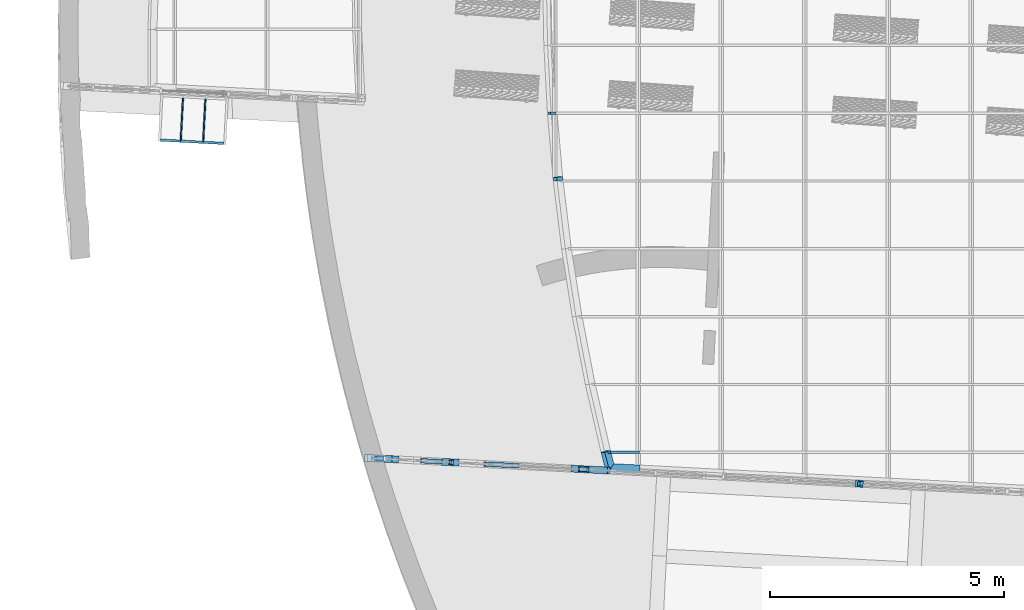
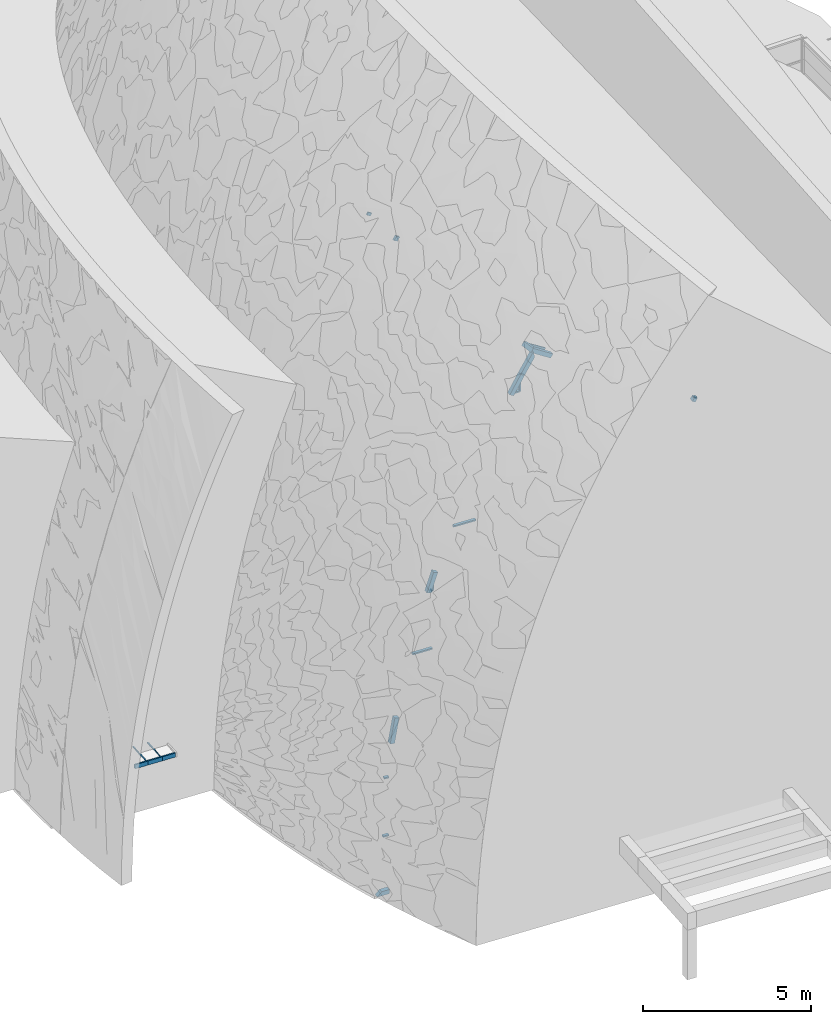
# One storey, part 23 of 82: 26 members, 2 elements without a shape of their own.
"""IFC2X3 building model written with IfcOpenShell, lengths in millimetres."""

from ifc_helpers import new_model, entity, si_unit, converted_unit, derived_unit, direction, frame, frame_2d, origin, origin_2d_with_axis, place, context, subcontext, project, spatial, polyline, rectangle, extrude, clip, halfspace, bounded_halfspace, source, transform, mapped, material, type_object, type_shapes, element, aggregate, save


model = new_model("IFC2X3")

# Units and contexts
model_context = context("Model", 3, precision=0.01, world=origin(), true_north=direction((6.12303176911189e-17, 1.0)))
body_context = subcontext(model_context, "Body", "Model", "MODEL_VIEW")
ifc_project = project(units=[si_unit("LENGTHUNIT", "METRE", prefix="MILLI"), si_unit("AREAUNIT", "SQUARE_METRE"), si_unit("VOLUMEUNIT", "CUBIC_METRE"), converted_unit("PLANEANGLEUNIT", "DEGREE", entity("IfcRatioMeasure", 0.0174532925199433), si_unit("PLANEANGLEUNIT", "RADIAN"), dimensions=[0, 0, 0, 0, 0, 0, 0]), si_unit("MASSUNIT", "GRAM", prefix="KILO"), derived_unit("MASSDENSITYUNIT", [(si_unit("MASSUNIT", "GRAM", prefix="KILO"), 1), (si_unit("LENGTHUNIT", "METRE"), -3)]), si_unit("TIMEUNIT", "SECOND"), si_unit("FREQUENCYUNIT", "HERTZ"), si_unit("THERMODYNAMICTEMPERATUREUNIT", "DEGREE_CELSIUS"), derived_unit("THERMALTRANSMITTANCEUNIT", [(si_unit("MASSUNIT", "GRAM", prefix="KILO"), 1), (si_unit("THERMODYNAMICTEMPERATUREUNIT", "KELVIN"), -1), (si_unit("TIMEUNIT", "SECOND"), -3)]), derived_unit("VOLUMETRICFLOWRATEUNIT", [(si_unit("LENGTHUNIT", "METRE"), 3), (si_unit("TIMEUNIT", "SECOND"), -1)]), si_unit("ELECTRICCURRENTUNIT", "AMPERE"), si_unit("ELECTRICVOLTAGEUNIT", "VOLT"), si_unit("POWERUNIT", "WATT"), si_unit("FORCEUNIT", "NEWTON", prefix="KILO"), si_unit("ILLUMINANCEUNIT", "LUX"), si_unit("LUMINOUSFLUXUNIT", "LUMEN"), si_unit("LUMINOUSINTENSITYUNIT", "CANDELA"), derived_unit("USERDEFINED", [(si_unit("MASSUNIT", "GRAM", prefix="KILO"), -1), (si_unit("LENGTHUNIT", "METRE"), -2), (si_unit("TIMEUNIT", "SECOND"), 3), (si_unit("LUMINOUSFLUXUNIT", "LUMEN"), 1)]), derived_unit("LINEARVELOCITYUNIT", [(si_unit("LENGTHUNIT", "METRE"), 1), (si_unit("TIMEUNIT", "SECOND"), -1)]), si_unit("PRESSUREUNIT", "PASCAL"), derived_unit("USERDEFINED", [(si_unit("LENGTHUNIT", "METRE"), -2), (si_unit("MASSUNIT", "GRAM", prefix="KILO"), 1), (si_unit("TIMEUNIT", "SECOND"), -2)])], contexts=[model_context])

# Site, building, storey
site_placement = place(None, origin())
site = spatial("IfcSite", under=ifc_project, at=site_placement, Name="表面", CompositionType="ELEMENT")
building_placement = place(site_placement, origin())
building = spatial("IfcBuilding", under=site, at=building_placement, CompositionType="ELEMENT")
storey_placement = place(building_placement, origin())
storey = spatial("IfcBuildingStorey", under=building, at=storey_placement, Name="1F", CompositionType="ELEMENT", Elevation=0.0)

# Curtain wall, members
curtain_wall_type_1 = type_object("IfcCurtainWallType", Name="幕墙系统:1450 x 2100mm", PredefinedType="NOTDEFINED")
curtain_wall_placement = place(storey_placement, origin())
curtain_wall = element("IfcCurtainWall", 1, at=curtain_wall_placement, inside=storey, type_object=curtain_wall_type_1, Name="幕墙系统:1450 x 2100mm", ObjectType="幕墙系统:1450 x 2100mm")
ifc_material_1 = material(Name="木质 - 木材")
member_type_1 = type_object("IfcMemberType", Name="200 x 150mm", PredefinedType="MEMBER")
shared_shape_1 = source(origin(), body_context, "Body", "Clipping", [
    clip(extrude(rectangle(XDim=150.0, YDim=150.0, at=frame_2d((6.3948846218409e-14, 0.0), x_axis=(1.0, 0.0))), frame((-75.0, 0.0, -772.514211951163), z_axis=(0.0, 0.0, 1.0), x_axis=(0.0, -1.0, 0.0)), (0.0, 0.0, 1.0), 772.514211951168), halfspace(frame((0.0, -304.8, 0.0), z_axis=(-0.578851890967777, 0.0, 0.815432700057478), x_axis=(-0.815432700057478, 0.0, -0.578851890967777)), False)),
])
type_shapes(member_type_1, [shared_shape_1])
placement_1 = place(building_placement, frame((0.0, 0.0, 9000.0)))
member_1_placement = place(placement_1, frame((-29478.0877488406, -28278.2446626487, 9116.15051836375), z_axis=(-0.847211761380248, 0.044400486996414, 0.52939666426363), x_axis=(-0.0376537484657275, -0.999013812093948, 0.023528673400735)))
member_1 = element("IfcMember", 2, at=member_1_placement, type_object=member_type_1, material=ifc_material_1, Name="矩形竖梃:200 x 150mm", ObjectType="200 x 150mm", context=body_context, shape_type="MappedRepresentation", body=[
    mapped(shared_shape_1, transform((0.0, 0.0, 0.0), scale=1.0)),
])
member_type_2 = type_object("IfcMemberType", Name="200 x 150mm", PredefinedType="MEMBER")
shared_shape_2 = source(origin(), body_context, "Body", "Clipping", [
    clip(clip(extrude(rectangle(XDim=150.0, YDim=150.0, at=origin_2d_with_axis()), frame((-75.0, 0.0, -406.519172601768), z_axis=(0.0, 0.0, 1.0), x_axis=(0.0, -1.0, 0.0)), (0.0, 0.0, 1.0), 406.519172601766), halfspace(frame((0.0, -304.8, -406.519172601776), z_axis=(-0.578851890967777, 0.0, -0.815432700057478), x_axis=(-0.815432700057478, 0.0, 0.578851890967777)), False)), halfspace(frame((0.0, -304.8, 0.0), z_axis=(-0.0131672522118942, 0.0, 0.999913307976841), x_axis=(-0.999913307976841, 0.0, -0.0131672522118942)), False)),
])
type_shapes(member_type_2, [shared_shape_2])
member_2_placement = place(placement_1, frame((-29577.2442179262, -27888.9031535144, 9178.11035693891), z_axis=(-0.243915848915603, 0.95774451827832, 0.152415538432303), x_axis=(-0.812213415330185, -0.28762030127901, 0.50752727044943)))
member_2 = element("IfcMember", 3, at=member_2_placement, type_object=member_type_2, material=ifc_material_1, Name="矩形竖梃:200 x 150mm", ObjectType="200 x 150mm", context=body_context, shape_type="MappedRepresentation", body=[
    mapped(shared_shape_2, transform((0.0, 0.0, 0.0), scale=1.0)),
])
member_type_3 = type_object("IfcMemberType", Name="200 x 150mm", PredefinedType="MEMBER")
shared_shape_3 = source(origin(), body_context, "Body", "SweptSolid", [
    extrude(rectangle(XDim=150.0, YDim=150.0, at=origin_2d_with_axis()), frame((-75.0, 0.0, -77.3687462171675), z_axis=(0.0, 0.0, 1.0), x_axis=(0.0, -1.0, 0.0)), (0.0, 0.0, 1.0), 77.3687462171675),
])
type_shapes(member_type_3, [shared_shape_3])
member_3_placement = place(placement_1, frame((-30604.5056245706, -22012.104578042, 9820.01452635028), z_axis=(-0.102766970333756, 0.992630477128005, 0.0642159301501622), x_axis=(-0.841798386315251, -0.121180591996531, 0.526014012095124)))
member_3 = element("IfcMember", 4, at=member_3_placement, type_object=member_type_3, material=ifc_material_1, Name="矩形竖梃:200 x 150mm", ObjectType="200 x 150mm", context=body_context, shape_type="MappedRepresentation", body=[
    mapped(shared_shape_3, transform((0.0, 0.0, 0.0), scale=1.0)),
])
ifc_material_2 = material(Name="金属 - 铝")
member_type_4 = type_object("IfcMemberType", Name="50 x 100mm", PredefinedType="MEMBER")
shared_shape_4 = source(origin(), body_context, "Body", "SweptSolid", [
    extrude(rectangle(XDim=100.0, YDim=50.0, at=origin_2d_with_axis()), frame((0.0, 0.0, -139.682920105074), z_axis=(0.0, 0.0, 1.0), x_axis=(0.0, -1.0, 0.0)), (0.0, 0.0, 1.0), 139.682920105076),
])
type_shapes(member_type_4, [shared_shape_4])
member_4_placement = place(placement_1, frame((-30722.9634590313, -20638.9031535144, 9894.0351965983), z_axis=(-0.848048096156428, 0.0, 0.529919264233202), x_axis=(0.0, -1.0, 0.0)))
member_4 = element("IfcMember", 5, at=member_4_placement, type_object=member_type_4, material=ifc_material_2, Name="矩形竖梃:50 x 100mm", ObjectType="50 x 100mm", context=body_context, shape_type="MappedRepresentation", body=[
    mapped(shared_shape_4, transform((0.0, 0.0, 0.0), scale=1.0)),
])
member_type_5 = type_object("IfcMemberType", Name="50 x 100mm", PredefinedType="MEMBER")
shared_shape_5 = source(origin(), body_context, "Body", "Clipping", [
    clip(extrude(rectangle(XDim=100.0, YDim=50.0, at=origin_2d_with_axis()), frame((0.0, 0.0, -888.675534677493), z_axis=(0.0, 0.0, 1.0), x_axis=(0.0, -1.0, 0.0)), (0.0, 0.0, 1.0), 739.565318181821), halfspace(frame((-41.2512516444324, 75.0, -144.229802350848), z_axis=(0.28762030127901, 0.0, 0.95774451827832), x_axis=(0.95774451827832, 0.0, -0.28762030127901)), False)),
])
type_shapes(member_type_5, [shared_shape_5])
member_5_placement = place(placement_1, frame((-29577.2442179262, -27888.9031535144, 9178.11035693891), z_axis=(-0.848048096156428, 0.0, 0.529919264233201), x_axis=(0.0, -1.0, 0.0)))
member_5 = element("IfcMember", 6, at=member_5_placement, type_object=member_type_5, material=ifc_material_2, Name="矩形竖梃:50 x 100mm", ObjectType="50 x 100mm", context=body_context, shape_type="MappedRepresentation", body=[
    mapped(shared_shape_5, transform((0.0, 0.0, 0.0), scale=1.0)),
])
member_type_6 = type_object("IfcMemberType", Name="200 x 150mm", PredefinedType="MEMBER")
shared_shape_6 = source(origin(), body_context, "Body", "Clipping", [
    clip(extrude(rectangle(XDim=150.0, YDim=150.0, at=origin_2d_with_axis()), frame((-75.0, 0.0, -406.676293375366), z_axis=(0.0, 0.0, 1.0), x_axis=(0.0, -1.0, 0.0)), (0.0, 0.0, 1.0), 406.676293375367), halfspace(frame((0.0, -304.8, 0.0), z_axis=(-0.717899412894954, 0.0, 0.696146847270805), x_axis=(-0.696146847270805, 0.0, -0.717899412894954)), False)),
])
type_shapes(member_type_6, [shared_shape_6])
member_6_placement = place(storey_placement, frame((-34671.8262045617, -28006.0523640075, 0.0), z_axis=(-0.998629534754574, 0.0523359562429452, 0.0), x_axis=(0.0, 0.0, -1.0)))
member_6 = element("IfcMember", 7, at=member_6_placement, type_object=member_type_6, material=ifc_material_1, Name="矩形竖梃:200 x 150mm", ObjectType="200 x 150mm", context=body_context, shape_type="MappedRepresentation", body=[
    mapped(shared_shape_6, transform((0.0, 0.0, 0.0), scale=1.0)),
])
member_type_7 = type_object("IfcMemberType", Name="200 x 150mm", PredefinedType="MEMBER")
shared_shape_7 = source(origin(), body_context, "Body", "Clipping", [
    clip(clip(extrude(rectangle(XDim=150.0, YDim=150.0, at=origin_2d_with_axis()), frame((-75.0, 0.0, -805.488389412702), z_axis=(0.0, 0.0, 1.0), x_axis=(0.0, -1.0, 0.0)), (0.0, 0.0, 1.0), 805.4883894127), halfspace(frame((0.0, -304.799999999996, -805.488389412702), z_axis=(-0.0112113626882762, 0.0, -0.999937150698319), x_axis=(-0.999937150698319, 0.0, 0.0112113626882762)), False)), halfspace(frame((0.0, -304.8, 0.0), z_axis=(-0.710826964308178, 0.0, 0.703366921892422), x_axis=(-0.703366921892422, 0.0, -0.710826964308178)), False)),
])
type_shapes(member_type_7, [shared_shape_7])
member_7_placement = place(placement_1, frame((-29478.0877488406, -28278.2446626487, 9116.15051836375), z_axis=(0.519703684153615, -0.0272365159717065, 0.853912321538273), x_axis=(-0.852742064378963, 0.0446903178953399, 0.520416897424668)))
member_7 = element("IfcMember", 8, at=member_7_placement, type_object=member_type_7, material=ifc_material_1, Name="矩形竖梃:200 x 150mm", ObjectType="200 x 150mm", context=body_context, shape_type="MappedRepresentation", body=[
    mapped(shared_shape_7, transform((0.0, 0.0, 0.0), scale=1.0)),
])
member_type_8 = type_object("IfcMemberType", Name="200 x 150mm", PredefinedType="MEMBER")
shared_shape_8 = source(origin(), body_context, "Body", "SweptSolid", [
    extrude(rectangle(XDim=150.0, YDim=150.0, at=frame_2d((0.0, 1.4210854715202e-14), x_axis=(1.0, 0.0))), frame((-75.0, 0.0, -110.418217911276), z_axis=(0.0, 0.0, 1.0), x_axis=(0.0, -1.0, 0.0)), (0.0, 0.0, 1.0), 110.418217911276),
])
type_shapes(member_type_8, [shared_shape_8])
member_8_placement = place(placement_1, frame((-24011.1041178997, -28564.7571341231, 5700.0), z_axis=(0.847211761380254, -0.0444004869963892, -0.529396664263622), x_axis=(0.528671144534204, -0.0277064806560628, 0.848374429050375)))
member_8 = element("IfcMember", 9, at=member_8_placement, type_object=member_type_8, material=ifc_material_1, Name="矩形竖梃:200 x 150mm", ObjectType="200 x 150mm", context=body_context, shape_type="MappedRepresentation", body=[
    mapped(shared_shape_8, transform((0.0, 0.0, 0.0), scale=1.0)),
])
member_type_9 = type_object("IfcMemberType", Name="200 x 150mm", PredefinedType="MEMBER")
shared_shape_9 = source(origin(), body_context, "Body", "Clipping", [
    clip(clip(extrude(rectangle(XDim=150.0, YDim=150.0, at=origin_2d_with_axis()), frame((-75.0, 0.0, -726.090455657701), z_axis=(0.0, 0.0, 1.0), x_axis=(0.0, -1.0, 0.0)), (0.0, 0.0, 1.0), 726.090455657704), halfspace(frame((0.0, -304.800000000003, -726.090455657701), z_axis=(-0.0225394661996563, 0.0, -0.999745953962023), x_axis=(-0.999745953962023, 0.0, 0.0225394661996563)), False)), halfspace(frame((0.0, -304.800000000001, 0.0), z_axis=(-0.0112113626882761, 0.0, 0.999937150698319), x_axis=(-0.999937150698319, 0.0, -0.0112113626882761)), False)),
])
type_shapes(member_type_9, [shared_shape_9])
member_9_placement = place(placement_1, frame((-29896.7030323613, -28256.3059652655, 8428.33405778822), z_axis=(0.500453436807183, -0.0262276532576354, 0.865366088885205), x_axis=(-0.864180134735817, 0.0452897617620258, 0.501140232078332)))
member_9 = element("IfcMember", 10, at=member_9_placement, type_object=member_type_9, material=ifc_material_1, Name="矩形竖梃:200 x 150mm", ObjectType="200 x 150mm", context=body_context, shape_type="MappedRepresentation", body=[
    mapped(shared_shape_9, transform((0.0, 0.0, 0.0), scale=1.0)),
])
member_type_10 = type_object("IfcMemberType", Name="200 x 150mm", PredefinedType="MEMBER")
shared_shape_10 = source(origin(), body_context, "Body", "Clipping", [
    clip(clip(extrude(rectangle(XDim=150.0, YDim=150.0, at=origin_2d_with_axis()), frame((-75.0, 0.0, -716.815557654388), z_axis=(0.0, 0.0, 1.0), x_axis=(0.0, -1.0, 0.0)), (0.0, 0.0, 1.0), 716.815557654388), halfspace(frame((0.0, -304.8, -716.815557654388), z_axis=(-0.0212459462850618, 0.0, -0.999774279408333), x_axis=(-0.999774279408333, 0.0, 0.0212459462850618)), False)), halfspace(frame((0.0, -304.8, 0.0), z_axis=(-0.0163380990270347, 0.0, 0.999866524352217), x_axis=(-0.999866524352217, 0.0, -0.0163380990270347)), False)),
])
type_shapes(member_type_10, [shared_shape_10])
member_10_placement = place(placement_1, frame((-32792.7286831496, -28104.5316921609, 2179.74674284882), z_axis=(0.316979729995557, -0.0166122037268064, 0.948286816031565), x_axis=(-0.946987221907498, 0.0496294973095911, 0.317414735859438)))
member_10 = element("IfcMember", 11, at=member_10_placement, type_object=member_type_10, material=ifc_material_1, Name="矩形竖梃:200 x 150mm", ObjectType="200 x 150mm", context=body_context, shape_type="MappedRepresentation", body=[
    mapped(shared_shape_10, transform((0.0, 0.0, 0.0), scale=1.0)),
])
member_type_11 = type_object("IfcMemberType", Name="200 x 150mm", PredefinedType="MEMBER")
shared_shape_11 = source(origin(), body_context, "Body", "Clipping", [
    clip(clip(extrude(rectangle(XDim=150.0, YDim=150.0, at=origin_2d_with_axis()), frame((-75.0, 0.0, -900.467325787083), z_axis=(0.0, 0.0, 1.0), x_axis=(0.0, -1.0, 0.0)), (0.0, 0.0, 1.0), 900.467325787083), halfspace(frame((0.0, -304.799999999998, -900.467325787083), z_axis=(-0.0155593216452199, 0.0, -0.999878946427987), x_axis=(-0.999878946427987, 0.0, 0.0155593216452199)), False)), halfspace(frame((0.0, -304.800000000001, 0.0), z_axis=(-0.022333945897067, 0.0, 0.999750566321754), x_axis=(-0.999750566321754, 0.0, -0.022333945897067)), False)),
])
type_shapes(member_type_11, [shared_shape_11])
placement_2 = place(building_placement, frame((0.0, 0.0, 3000.0)))
member_11_placement = place(placement_2, frame((-34086.5278607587, -28036.7265504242, 3300.0), z_axis=(0.171259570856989, -0.00897533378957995, 0.985185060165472), x_axis=(-0.983834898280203, 0.0515606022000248, 0.17149459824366)))
member_11 = element("IfcMember", 12, at=member_11_placement, type_object=member_type_11, material=ifc_material_1, Name="矩形竖梃:200 x 150mm", ObjectType="200 x 150mm", context=body_context, shape_type="MappedRepresentation", body=[
    mapped(shared_shape_11, transform((0.0, 0.0, 0.0), scale=1.0)),
])
member_type_12 = type_object("IfcMemberType", Name="50 x 100mm", PredefinedType="MEMBER")
shared_shape_12 = source(origin(), body_context, "Body", "Clipping", [
    clip(clip(extrude(rectangle(XDim=100.0, YDim=50.0, at=origin_2d_with_axis()), frame((0.0, 0.0, -192.749865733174), z_axis=(0.0, 0.0, 1.0), x_axis=(0.0, -1.0, 0.0)), (0.0, 0.0, 1.0), 192.749865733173), bounded_halfspace(frame((-9.23653718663, 75.0, -192.26476573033), z_axis=(0.0307591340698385, 0.0, -0.999526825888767), x_axis=(-0.999526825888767, 0.0, -0.0307591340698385)), False, frame((0.0, 0.0, -192.749865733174), z_axis=(0.0, 0.0, 1.0), x_axis=(0.0, -1.0, 0.0)), polyline([(50.0, -9.23653718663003), (50.0, -25.0), (-50.0, -25.0), (-50.0, -9.23653718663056), (50.0, -9.23653718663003)]))), bounded_halfspace(frame((2086.15834021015, 75.0, 1.92205646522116), z_axis=(0.0922777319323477, 0.0, -0.99573330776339), x_axis=(-0.99573330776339, 0.0, -0.0922777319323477)), False, frame((0.0, 0.0, -192.749865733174), z_axis=(0.0, 0.0, 1.0), x_axis=(0.0, -1.0, 0.0)), polyline([(-50.0, 25.0), (50.0, 25.0), (50.0, -9.23653718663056), (-50.0, -9.23653718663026), (-50.0, 25.0)]))),
])
type_shapes(member_type_12, [shared_shape_12])
member_12_placement = place(storey_placement, frame((-34265.7072469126, -28027.3361567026, 2100.0), z_axis=(0.998629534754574, -0.0523359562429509, 0.0), x_axis=(0.0, 0.0, 1.0)))
member_12 = element("IfcMember", 13, at=member_12_placement, type_object=member_type_12, material=ifc_material_2, Name="矩形竖梃:50 x 100mm", ObjectType="50 x 100mm", context=body_context, shape_type="MappedRepresentation", body=[
    mapped(shared_shape_12, transform((0.0, 0.0, 0.0), scale=1.0)),
])
member_type_13 = type_object("IfcMemberType", Name="50 x 100mm", PredefinedType="MEMBER")
shared_shape_13 = source(origin(), body_context, "Body", "SweptSolid", [
    extrude(rectangle(XDim=100.0, YDim=50.0, at=origin_2d_with_axis()), frame((0.0, 0.0, -147.437939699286), z_axis=(0.0, 0.0, 1.0), x_axis=(0.0, -1.0, 0.0)), (0.0, 0.0, 1.0), 147.437939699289),
])
type_shapes(member_type_13, [shared_shape_13])
member_13_placement = place(placement_2, frame((-34265.7072469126, -28027.3361567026, 1200.0), z_axis=(0.998629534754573, -0.0523359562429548, 0.0), x_axis=(0.0, 0.0, 1.0)))
member_13 = element("IfcMember", 14, at=member_13_placement, type_object=member_type_13, material=ifc_material_2, Name="矩形竖梃:50 x 100mm", ObjectType="50 x 100mm", context=body_context, shape_type="MappedRepresentation", body=[
    mapped(shared_shape_13, transform((0.0, 0.0, 0.0), scale=1.0)),
])
member_type_14 = type_object("IfcMemberType", Name="50 x 100mm", PredefinedType="MEMBER")
shared_shape_14 = source(origin(), body_context, "Body", "Clipping", [
    clip(extrude(rectangle(XDim=100.0, YDim=50.0, at=origin_2d_with_axis()), frame((0.0, 0.0, -658.645989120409), z_axis=(0.0, 0.0, 1.0), x_axis=(0.0, -1.0, 0.0)), (0.0, 0.0, 1.0), 658.645989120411), halfspace(frame((2058.47358392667, 75.0, -58.3905364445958), z_axis=(0.276842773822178, 0.0, -0.960915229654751), x_axis=(-0.960915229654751, 0.0, -0.276842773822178)), False)),
])
type_shapes(member_type_14, [shared_shape_14])
placement_3 = place(building_placement, frame((0.0, 0.0, 6000.0)))
member_14_placement = place(placement_3, frame((-32817.6944215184, -28103.2232932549, 2400.0), z_axis=(0.998629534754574, -0.0523359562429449, 0.0), x_axis=(0.0, 0.0, 1.0)))
member_14 = element("IfcMember", 15, at=member_14_placement, type_object=member_type_14, material=ifc_material_2, Name="矩形竖梃:50 x 100mm", ObjectType="50 x 100mm", context=body_context, shape_type="MappedRepresentation", body=[
    mapped(shared_shape_14, transform((0.0, 0.0, 0.0), scale=1.0)),
])
member_type_15 = type_object("IfcMemberType", Name="50 x 100mm", PredefinedType="MEMBER")
shared_shape_15 = source(origin(), body_context, "Body", "Clipping", [
    clip(extrude(rectangle(XDim=100.0, YDim=50.0, at=origin_2d_with_axis()), frame((0.0, 0.0, -52.7159399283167), z_axis=(0.0, 0.0, 1.0), x_axis=(0.0, -1.0, 0.0)), (0.0, 0.0, 1.0), 52.7159399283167), halfspace(frame((632.134532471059, 75.0, 167.243022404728), z_axis=(0.317414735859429, 0.0, -0.948286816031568), x_axis=(-0.948286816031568, 0.0, -0.317414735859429)), False)),
])
type_shapes(member_type_15, [shared_shape_15])
member_15_placement = place(placement_1, frame((-32817.6944215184, -28103.2232932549, 1500.0), z_axis=(0.998629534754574, -0.0523359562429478, 0.0), x_axis=(0.0, 0.0, 1.0)))
member_15 = element("IfcMember", 16, at=member_15_placement, type_object=member_type_15, material=ifc_material_2, Name="矩形竖梃:50 x 100mm", ObjectType="50 x 100mm", context=body_context, shape_type="MappedRepresentation", body=[
    mapped(shared_shape_15, transform((0.0, 0.0, 0.0), scale=1.0)),
])
member_type_16 = type_object("IfcMemberType", Name="50 x 100mm", PredefinedType="MEMBER")
shared_shape_16 = source(origin(), body_context, "Body", "Clipping", [
    clip(extrude(rectangle(XDim=100.0, YDim=50.0, at=frame_2d((-1.77635683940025e-14, 0.0), x_axis=(1.0, 0.0))), frame((0.0, 0.0, -744.6584616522), z_axis=(0.0, 0.0, 1.0), x_axis=(0.0, -1.0, 0.0)), (0.0, 0.0, 1.0), 744.658461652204), halfspace(frame((2040.01434982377, 75.0, 156.331103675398), z_axis=(0.399904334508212, 0.0, -0.916556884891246), x_axis=(-0.916556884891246, 0.0, -0.399904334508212)), False)),
])
type_shapes(member_type_16, [shared_shape_16])
member_16_placement = place(placement_1, frame((-31369.6815961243, -28179.1104298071, 3600.0), z_axis=(0.998629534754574, -0.0523359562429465, 0.0), x_axis=(0.0, 0.0, 1.0)))
member_16 = element("IfcMember", 17, at=member_16_placement, type_object=member_type_16, material=ifc_material_2, Name="矩形竖梃:50 x 100mm", ObjectType="50 x 100mm", context=body_context, shape_type="MappedRepresentation", body=[
    mapped(shared_shape_16, transform((0.0, 0.0, 0.0), scale=1.0)),
])
member_type_17 = type_object("IfcMemberType", Name="50 x 100mm", PredefinedType="MEMBER")
shared_shape_17 = source(origin(), body_context, "Body", "SweptSolid", [
    extrude(rectangle(XDim=100.0, YDim=50.0, at=origin_2d_with_axis()), frame((0.0, 0.0, -68.6759925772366), z_axis=(0.0, 0.0, 1.0), x_axis=(0.0, -1.0, 0.0)), (0.0, 0.0, 1.0), 68.6759925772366),
])
type_shapes(member_type_17, [shared_shape_17])
member_17_placement = place(placement_1, frame((-24011.1041178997, -28564.7571341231, 5700.0), z_axis=(0.998629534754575, -0.0523359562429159, 0.0), x_axis=(0.0, 0.0, 1.0)))
member_17 = element("IfcMember", 18, at=member_17_placement, type_object=member_type_17, material=ifc_material_2, Name="矩形竖梃:50 x 100mm", ObjectType="50 x 100mm", context=body_context, shape_type="MappedRepresentation", body=[
    mapped(shared_shape_17, transform((0.0, 0.0, 0.0), scale=1.0)),
])
member_type_18 = type_object("IfcMemberType", Name="50 x 100mm", PredefinedType="MEMBER")
shared_shape_18 = source(origin(), body_context, "Body", "Clipping", [
    clip(extrude(rectangle(XDim=100.0, YDim=50.0, at=origin_2d_with_axis()), frame((0.0, 0.0, -180.013789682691), z_axis=(0.0, 0.0, 1.0), x_axis=(0.0, -1.0, 0.0)), (0.0, 0.0, 1.0), 180.013789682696), halfspace(frame((553.163022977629, 75.0, 154.804913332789), z_axis=(0.501140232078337, 0.0, -0.865366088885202), x_axis=(-0.865366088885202, 0.0, -0.501140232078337)), False)),
])
type_shapes(member_type_18, [shared_shape_18])
member_18_placement = place(placement_1, frame((-29921.6687707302, -28254.9975663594, 7800.0), z_axis=(0.998629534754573, -0.0523359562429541, 0.0), x_axis=(0.0, 0.0, 1.0)))
member_18 = element("IfcMember", 19, at=member_18_placement, type_object=member_type_18, material=ifc_material_2, Name="矩形竖梃:50 x 100mm", ObjectType="50 x 100mm", context=body_context, shape_type="MappedRepresentation", body=[
    mapped(shared_shape_18, transform((0.0, 0.0, 0.0), scale=1.0)),
])
member_type_19 = type_object("IfcMemberType", Name="50 x 100mm", PredefinedType="MEMBER")
shared_shape_19 = source(origin(), body_context, "Body", "SweptSolid", [
    extrude(rectangle(XDim=100.0, YDim=50.0, at=origin_2d_with_axis()), frame((0.0, 0.0, -58.4550362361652), z_axis=(0.0, 0.0, 1.0), x_axis=(0.0, -1.0, 0.0)), (0.0, 0.0, 1.0), 58.4550362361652),
])
type_shapes(member_type_19, [shared_shape_19])
member_19_placement = place(placement_1, frame((-24104.6517307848, -28559.8545114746, 5758.45503623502), z_axis=(0.0, 0.0, 1.0), x_axis=(-0.998629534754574, 0.0523359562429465, 0.0)))
member_19 = element("IfcMember", 20, at=member_19_placement, type_object=member_type_19, material=ifc_material_2, Name="矩形竖梃:50 x 100mm", ObjectType="50 x 100mm", context=body_context, shape_type="MappedRepresentation", body=[
    mapped(shared_shape_19, transform((0.0, 0.0, 0.0), scale=1.0)),
])
member_type_20 = type_object("IfcMemberType", Name="50 x 100mm", PredefinedType="MEMBER")
shared_shape_20 = source(origin(), body_context, "Body", "Clipping", [
    clip(extrude(rectangle(XDim=100.0, YDim=50.0, at=origin_2d_with_axis()), frame((0.0, 0.0, -628.334057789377), z_axis=(0.0, 0.0, 1.0), x_axis=(0.0, -1.0, 0.0)), (0.0, 0.0, 1.0), 372.186497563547), halfspace(frame((-128.962090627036, 75.0, -76.6264162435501), z_axis=(0.865366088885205, 0.0, 0.501140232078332), x_axis=(0.501140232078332, 0.0, -0.865366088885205)), False)),
])
type_shapes(member_type_20, [shared_shape_20])
member_20_placement = place(placement_1, frame((-29896.7030323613, -28256.3059652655, 8428.33405778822), z_axis=(0.0, 0.0, 1.0), x_axis=(-0.998629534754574, 0.0523359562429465, 0.0)))
member_20 = element("IfcMember", 21, at=member_20_placement, type_object=member_type_20, material=ifc_material_2, Name="矩形竖梃:50 x 100mm", ObjectType="50 x 100mm", context=body_context, shape_type="MappedRepresentation", body=[
    mapped(shared_shape_20, transform((0.0, 0.0, 0.0), scale=1.0)),
])
member_type_21 = type_object("IfcMemberType", Name="50 x 100mm", PredefinedType="MEMBER")
shared_shape_21 = source(origin(), body_context, "Body", "Clipping", [
    clip(extrude(rectangle(XDim=100.0, YDim=50.0, at=origin_2d_with_axis()), frame((0.0, 0.0, -679.746742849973), z_axis=(0.0, 0.0, 1.0), x_axis=(0.0, -1.0, 0.0)), (0.0, 0.0, 1.0), 281.867201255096), halfspace(frame((-141.465025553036, 75.0, -49.9365012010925), z_axis=(0.948286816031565, 0.0, 0.317414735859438), x_axis=(0.317414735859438, 0.0, -0.948286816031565)), False)),
])
type_shapes(member_type_21, [shared_shape_21])
member_21_placement = place(placement_1, frame((-32792.7286831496, -28104.5316921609, 2179.74674284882), z_axis=(0.0, 0.0, 1.0), x_axis=(-0.998629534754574, 0.0523359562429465, 0.0)))
member_21 = element("IfcMember", 22, at=member_21_placement, type_object=member_type_21, material=ifc_material_2, Name="矩形竖梃:50 x 100mm", ObjectType="50 x 100mm", context=body_context, shape_type="MappedRepresentation", body=[
    mapped(shared_shape_21, transform((0.0, 0.0, 0.0), scale=1.0)),
])
aggregate(curtain_wall, [member_1, member_2, member_3, member_4, member_5, member_6, member_7, member_8, member_9, member_10, member_11, member_12, member_13, member_14, member_15, member_16, member_17, member_18, member_19, member_20, member_21])

# Roof, members
curtain_wall_type_2 = type_object("IfcCurtainWallType", Name="玻璃斜窗:玻璃斜窗 2", PredefinedType="NOTDEFINED")
roof_placement = place(storey_placement, origin())
roof = element("IfcRoof", 23, at=roof_placement, inside=storey, type_object=curtain_wall_type_2, Name="玻璃斜窗:玻璃斜窗 2", ObjectType="玻璃斜窗:玻璃斜窗 2", ShapeType="NOTDEFINED")
member_type_22 = type_object("IfcMemberType", Name="30mm 正方形", PredefinedType="MEMBER")
shared_shape_22 = source(origin(), body_context, "Body", "SweptSolid", [
    extrude(rectangle(XDim=30.0, YDim=30.0, at=origin_2d_with_axis()), frame((0.0, 0.0, -900.0), z_axis=(0.0, 0.0, 1.0), x_axis=(0.0, -1.0, 0.0)), (0.0, 0.0, 1.0), 899.999999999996),
])
type_shapes(member_type_22, [shared_shape_22])
member_22_placement = place(storey_placement, frame((-38553.6637930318, -20313.7839116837, 2100.0), z_axis=(0.0523359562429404, 0.998629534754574, 0.0), x_axis=(0.998629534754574, -0.0523359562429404, 0.0)))
member_22 = element("IfcMember", 24, at=member_22_placement, type_object=member_type_22, material=ifc_material_2, Name="矩形竖梃:30mm 正方形", ObjectType="30mm 正方形", context=body_context, shape_type="MappedRepresentation", body=[
    mapped(shared_shape_22, transform((0.0, 0.0, 0.0), scale=1.0)),
])
member_23_placement = place(storey_placement, frame((-38074.3216163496, -20338.9051706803, 2100.0), z_axis=(0.0523359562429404, 0.998629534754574, 0.0), x_axis=(0.998629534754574, -0.0523359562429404, 0.0)))
member_23 = element("IfcMember", 25, at=member_23_placement, type_object=member_type_22, material=ifc_material_2, Name="矩形竖梃:30mm 正方形", ObjectType="30mm 正方形", context=body_context, shape_type="MappedRepresentation", body=[
    mapped(shared_shape_22, transform((0.0, 0.0, 0.0), scale=1.0)),
])
member_type_23 = type_object("IfcMemberType", Name="50 x 150mm", PredefinedType="MEMBER")
shared_shape_23 = source(origin(), body_context, "Body", "SweptSolid", [
    extrude(rectangle(XDim=150.0, YDim=50.0, at=origin_2d_with_axis()), frame((-25.0, 0.0, -440.0), z_axis=(0.0, 0.0, 1.0), x_axis=(0.0, -1.0, 0.0)), (0.0, 0.0, 1.0), 439.999999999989),
])
type_shapes(member_type_23, [shared_shape_23])
member_24_placement = place(storey_placement, frame((-37684.6437794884, -21310.6310494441, 2100.0), z_axis=(0.998629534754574, -0.0523359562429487, 0.0), x_axis=(-0.0523359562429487, -0.998629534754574, 0.0)))
member_24 = element("IfcMember", 26, at=member_24_placement, type_object=member_type_23, material=ifc_material_2, Name="矩形竖梃:50 x 150mm", ObjectType="50 x 150mm", context=body_context, shape_type="MappedRepresentation", body=[
    mapped(shared_shape_23, transform((0.0, 0.0, 0.0), scale=1.0)),
])
member_type_24 = type_object("IfcMemberType", Name="50 x 150mm", PredefinedType="MEMBER")
shared_shape_24 = source(origin(), body_context, "Body", "SweptSolid", [
    extrude(rectangle(XDim=150.0, YDim=50.0, at=origin_2d_with_axis()), frame((-25.0, 0.0, -430.0), z_axis=(0.0, 0.0, 1.0), x_axis=(0.0, -1.0, 0.0)), (0.0, 0.0, 1.0), 430.000000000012),
])
type_shapes(member_type_24, [shared_shape_24])
member_25_placement = place(storey_placement, frame((-38603.3829514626, -21262.4819697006, 2100.0), z_axis=(0.998629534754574, -0.0523359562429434, 0.0), x_axis=(-0.0523359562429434, -0.998629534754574, 0.0)))
member_25 = element("IfcMember", 27, at=member_25_placement, type_object=member_type_24, material=ifc_material_2, Name="矩形竖梃:50 x 150mm", ObjectType="50 x 150mm", context=body_context, shape_type="MappedRepresentation", body=[
    mapped(shared_shape_24, transform((0.0, 0.0, 0.0), scale=1.0)),
])
member_type_25 = type_object("IfcMemberType", Name="50 x 150mm", PredefinedType="MEMBER")
shared_shape_25 = source(origin(), body_context, "Body", "SweptSolid", [
    extrude(rectangle(XDim=150.0, YDim=50.0, at=origin_2d_with_axis()), frame((-25.0, 0.0, -480.0), z_axis=(0.0, 0.0, 1.0), x_axis=(0.0, -1.0, 0.0)), (0.0, 0.0, 1.0), 479.999999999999),
])
type_shapes(member_type_25, [shared_shape_25])
member_26_placement = place(storey_placement, frame((-38124.0407747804, -21287.6032286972, 2100.0), z_axis=(0.998629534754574, -0.0523359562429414, 0.0), x_axis=(-0.0523359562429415, -0.998629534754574, 0.0)))
member_26 = element("IfcMember", 28, at=member_26_placement, type_object=member_type_25, material=ifc_material_2, Name="矩形竖梃:50 x 150mm", ObjectType="50 x 150mm", context=body_context, shape_type="MappedRepresentation", body=[
    mapped(shared_shape_25, transform((0.0, 0.0, 0.0), scale=1.0)),
])
aggregate(roof, [member_24, member_25, member_26, member_22, member_23])

save(model, "model.ifc")
